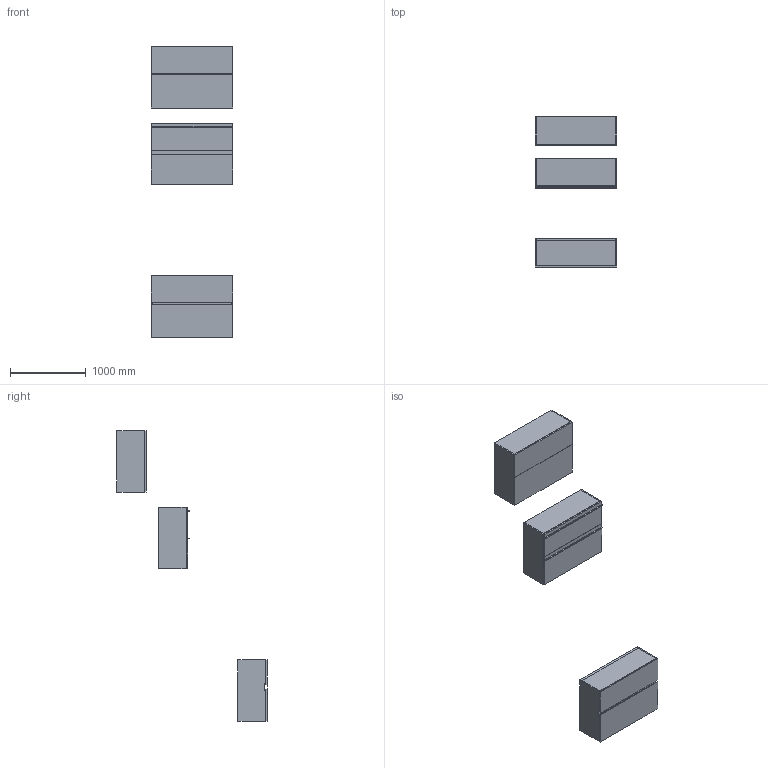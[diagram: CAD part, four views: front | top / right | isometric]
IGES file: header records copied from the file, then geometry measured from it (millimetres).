
Start section: Data from Parasolid IGES Translator 19.0.9, Copyright(c) 2006 Siemens PL M Software. All Rights Reserved.
Global section: file name: noorth-SI-H 81,2 D 38,8 W 108_8687.igs; native system: By Siemens PLM Incorporated; preprocessor: XPlus GENERIC/IGES 19.0.9; author: Noname; organization: Noname; date: 20200601.123704; units: metre
Bounding box: 1080 x 1986 x 3842 mm (x, y, z)
Volume: 124300467.3 mm3; surface area: 19692702.3 mm2
Topology: 25 solids, 25 shells, 254 faces, 556 edges, 332 vertices
Faces by surface type: plane 170, extrusion 36, bspline 32, cylinder 16
